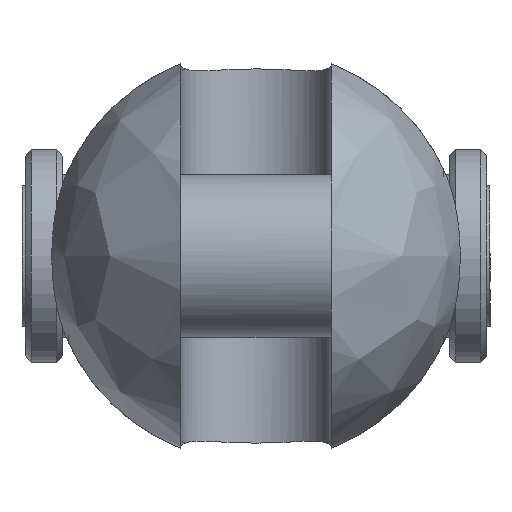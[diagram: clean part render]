
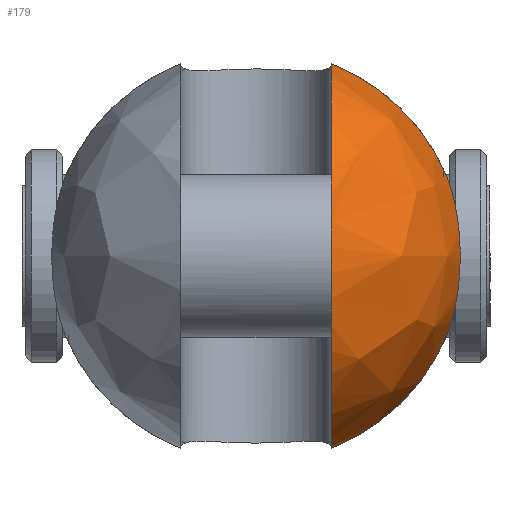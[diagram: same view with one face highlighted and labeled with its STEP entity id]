
A CAD part, left-side view. The second image highlights one B-rep face of the part: STEP entity #179.
In plain terms, the highlighted free-form (B-spline) face has degree [2, 2] with [9, 5] control points.
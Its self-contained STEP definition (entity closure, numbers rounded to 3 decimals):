
#179=ADVANCED_FACE('',(#320),#2412,.T.);
#320=FACE_OUTER_BOUND('',#481,.T.);
#481=EDGE_LOOP('',(#1192,#1193,#1194,#1195));
#1192=ORIENTED_EDGE('',*,*,#1576,.T.);
#1193=ORIENTED_EDGE('',*,*,#1598,.F.);
#1194=ORIENTED_EDGE('',*,*,#1616,.T.);
#1195=ORIENTED_EDGE('',*,*,#1592,.F.);
#1576=EDGE_CURVE('',#2244,#2243,#1821,.T.);
#1592=EDGE_CURVE('',#2244,#2256,#1831,.T.);
#1598=EDGE_CURVE('',#2263,#2243,#1832,.T.);
#1616=EDGE_CURVE('',#2263,#2256,#2006,.T.);
#1821=(
BOUNDED_CURVE()
B_SPLINE_CURVE(2,(#5894,#5895,#5896,#5897,#5898),.UNSPECIFIED.,.F.,.F.)
B_SPLINE_CURVE_WITH_KNOTS((3,2,3),(-48.288,-24.144,
0.),.UNSPECIFIED.)
CURVE()
GEOMETRIC_REPRESENTATION_ITEM()
RATIONAL_B_SPLINE_CURVE((1.,0.707,1.,0.707,1.))
REPRESENTATION_ITEM('')
);
#1831=(
BOUNDED_CURVE()
B_SPLINE_CURVE(2,(#5972,#5973,#5974),.UNSPECIFIED.,.F.,.F.)
B_SPLINE_CURVE_WITH_KNOTS((3,3),(0.,13.18),.UNSPECIFIED.)
CURVE()
GEOMETRIC_REPRESENTATION_ITEM()
RATIONAL_B_SPLINE_CURVE((1.,0.921,1.))
REPRESENTATION_ITEM('')
);
#1832=(
BOUNDED_CURVE()
B_SPLINE_CURVE(2,(#5997,#5998,#5999),.UNSPECIFIED.,.F.,.F.)
B_SPLINE_CURVE_WITH_KNOTS((3,3),(0.,13.18),.UNSPECIFIED.)
CURVE()
GEOMETRIC_REPRESENTATION_ITEM()
RATIONAL_B_SPLINE_CURVE((1.,0.921,1.))
REPRESENTATION_ITEM('')
);
#2006=B_SPLINE_CURVE_WITH_KNOTS('',3,(#6077,#6078,#6079,#6080,#6081,#6082,
#6083,#6084,#6085,#6086,#6087,#6088,#6089,#6090),.UNSPECIFIED.,.F.,.F.,
(4,2,2,2,2,2,4),(-14.389,-13.135,-10.165,
-7.195,-4.224,-1.254,0.),.UNSPECIFIED.);
#2243=VERTEX_POINT('',#5762);
#2244=VERTEX_POINT('',#5763);
#2256=VERTEX_POINT('',#5775);
#2263=VERTEX_POINT('',#5782);
#2412=(
BOUNDED_SURFACE()
B_SPLINE_SURFACE(2,2,((#5476,#5477,#5478,#5479,#5480),(#5481,#5482,#5483,
#5484,#5485),(#5486,#5487,#5488,#5489,#5490),(#5491,#5492,#5493,#5494,#5495),
(#5496,#5497,#5498,#5499,#5500),(#5501,#5502,#5503,#5504,#5505),(#5506,
#5507,#5508,#5509,#5510),(#5511,#5512,#5513,#5514,#5515),(#5516,#5517,#5518,
#5519,#5520)),.UNSPECIFIED.,.T.,.F.,.F.)
B_SPLINE_SURFACE_WITH_KNOTS((3,2,2,2,3),(3,2,3),(0.,1.571,3.142,
4.712,6.283),(-1.571,0.,1.571),
 .UNSPECIFIED.)
GEOMETRIC_REPRESENTATION_ITEM()
RATIONAL_B_SPLINE_SURFACE(((1.,0.707,1.,0.707,1.),
(0.707,0.5,0.707,0.5,0.707),(1.,0.707,
1.,0.707,1.),(0.707,0.5,0.707,0.5,0.707),
(1.,0.707,1.,0.707,1.),(0.707,0.5,0.707,
0.5,0.707),(1.,0.707,1.,0.707,1.),(0.707,
0.5,0.707,0.5,0.707),(1.,0.707,1.,0.707,
1.)))
REPRESENTATION_ITEM('')
SURFACE()
);
#5476=CARTESIAN_POINT('',(-23.5,0.,0.));
#5477=CARTESIAN_POINT('',(-23.5,16.5,0.));
#5478=CARTESIAN_POINT('',(-7.,16.5,0.));
#5479=CARTESIAN_POINT('',(9.5,16.5,0.));
#5480=CARTESIAN_POINT('',(9.5,0.,0.));
#5481=CARTESIAN_POINT('',(-23.5,0.,0.));
#5482=CARTESIAN_POINT('',(-23.5,16.5,16.5));
#5483=CARTESIAN_POINT('',(-7.,16.5,16.5));
#5484=CARTESIAN_POINT('',(9.5,16.5,16.5));
#5485=CARTESIAN_POINT('',(9.5,0.,0.));
#5486=CARTESIAN_POINT('',(-23.5,0.,0.));
#5487=CARTESIAN_POINT('',(-23.5,0.,16.5));
#5488=CARTESIAN_POINT('',(-7.,0.,16.5));
#5489=CARTESIAN_POINT('',(9.5,0.,16.5));
#5490=CARTESIAN_POINT('',(9.5,0.,0.));
#5491=CARTESIAN_POINT('',(-23.5,0.,0.));
#5492=CARTESIAN_POINT('',(-23.5,-16.5,16.5));
#5493=CARTESIAN_POINT('',(-7.,-16.5,16.5));
#5494=CARTESIAN_POINT('',(9.5,-16.5,16.5));
#5495=CARTESIAN_POINT('',(9.5,0.,0.));
#5496=CARTESIAN_POINT('',(-23.5,0.,0.));
#5497=CARTESIAN_POINT('',(-23.5,-16.5,0.));
#5498=CARTESIAN_POINT('',(-7.,-16.5,0.));
#5499=CARTESIAN_POINT('',(9.5,-16.5,0.));
#5500=CARTESIAN_POINT('',(9.5,0.,0.));
#5501=CARTESIAN_POINT('',(-23.5,0.,0.));
#5502=CARTESIAN_POINT('',(-23.5,-16.5,-16.5));
#5503=CARTESIAN_POINT('',(-7.,-16.5,-16.5));
#5504=CARTESIAN_POINT('',(9.5,-16.5,-16.5));
#5505=CARTESIAN_POINT('',(9.5,0.,0.));
#5506=CARTESIAN_POINT('',(-23.5,0.,0.));
#5507=CARTESIAN_POINT('',(-23.5,0.,-16.5));
#5508=CARTESIAN_POINT('',(-7.,0.,-16.5));
#5509=CARTESIAN_POINT('',(9.5,0.,-16.5));
#5510=CARTESIAN_POINT('',(9.5,0.,0.));
#5511=CARTESIAN_POINT('',(-23.5,0.,0.));
#5512=CARTESIAN_POINT('',(-23.5,16.5,-16.5));
#5513=CARTESIAN_POINT('',(-7.,16.5,-16.5));
#5514=CARTESIAN_POINT('',(9.5,16.5,-16.5));
#5515=CARTESIAN_POINT('',(9.5,0.,0.));
#5516=CARTESIAN_POINT('',(-23.5,0.,0.));
#5517=CARTESIAN_POINT('',(-23.5,16.5,0.));
#5518=CARTESIAN_POINT('',(-7.,16.5,0.));
#5519=CARTESIAN_POINT('',(9.5,16.5,0.));
#5520=CARTESIAN_POINT('',(9.5,0.,0.));
#5762=CARTESIAN_POINT('',(-7.,-6.,-15.37));
#5763=CARTESIAN_POINT('',(-7.,-6.,15.37));
#5775=CARTESIAN_POINT('',(-7.,-15.199,6.423));
#5782=CARTESIAN_POINT('',(-7.,-15.199,-6.423));
#5894=CARTESIAN_POINT('',(-7.,-6.,15.37));
#5895=CARTESIAN_POINT('',(-22.37,-6.,15.37));
#5896=CARTESIAN_POINT('',(-22.37,-6.,0.));
#5897=CARTESIAN_POINT('',(-22.37,-6.,-15.37));
#5898=CARTESIAN_POINT('',(-7.,-6.,-15.37));
#5972=CARTESIAN_POINT('',(-7.,-6.,15.37));
#5973=CARTESIAN_POINT('',(-7.,-12.488,12.838));
#5974=CARTESIAN_POINT('',(-7.,-15.199,6.423));
#5997=CARTESIAN_POINT('',(-7.,-15.199,-6.423));
#5998=CARTESIAN_POINT('',(-7.,-12.488,-12.838));
#5999=CARTESIAN_POINT('',(-7.,-6.,-15.37));
#6077=CARTESIAN_POINT('',(-7.,-15.199,-6.423));
#6078=CARTESIAN_POINT('',(-7.269,-15.323,-6.13));
#6079=CARTESIAN_POINT('',(-7.517,-15.435,-5.822));
#6080=CARTESIAN_POINT('',(-8.27,-15.774,-4.764));
#6081=CARTESIAN_POINT('',(-8.735,-15.978,-3.868));
#6082=CARTESIAN_POINT('',(-9.35,-16.246,-1.958));
#6083=CARTESIAN_POINT('',(-9.5,-16.31,-0.944));
#6084=CARTESIAN_POINT('',(-9.5,-16.31,0.944));
#6085=CARTESIAN_POINT('',(-9.35,-16.246,1.958));
#6086=CARTESIAN_POINT('',(-8.735,-15.978,3.868));
#6087=CARTESIAN_POINT('',(-8.27,-15.774,4.764));
#6088=CARTESIAN_POINT('',(-7.517,-15.435,5.822));
#6089=CARTESIAN_POINT('',(-7.269,-15.323,6.13));
#6090=CARTESIAN_POINT('',(-7.,-15.199,6.423));
